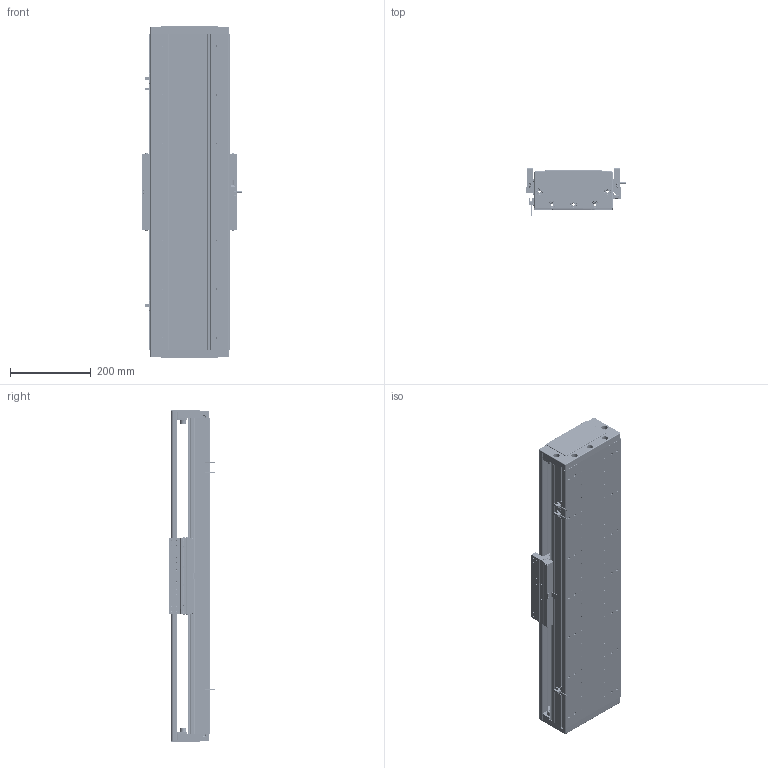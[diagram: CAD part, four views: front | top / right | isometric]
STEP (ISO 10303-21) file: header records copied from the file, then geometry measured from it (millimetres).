
FILE_DESCRIPTION (( 'STEP AP203' ), '1' );
FILE_NAME ('DA-C195-C2-T540-C010-0.2 眻盄萇儂.STEP', '2025-08-15T01:00:44', ( '' ), ( '' ), 'SwSTEP 2.0', 'SolidWorks 2019', '' );
FILE_SCHEMA (( 'CONFIG_CONTROL_DESIGN' ));
Length unit declared in the file: millimetre
Products named in the file (12): 66156-0001-003-00 裔啣; LMT黍杅芛; IU-CU195-L-00 菁釱(L780); DA95-HXJ-00 遣喳砎蝶; CU195-C2賑輸-俋楷; MS200 棠掑喜S315-T240; DA-C195-C2-T540-C010-0.2 眻盄萇儂; IU-CU195-L 菁釱絳寢; 葩璃 DA95-GT-T-00; 66156-0001-005-00 光电感应片(默认); PM-T45ㄗ侂狟ㄘ; DA195-DG-H-00  端盖（压铸镂空版）
Assembly tree (20 placements, depth 3):
  DA-C195-C2-T540-C010-0.2 眻盄萇儂
    IU-CU195-L 菁釱絳寢
      IU-CU195-L-00 菁釱(L780)
      葩璃 DA95-GT-T-00  x4
    LMT黍杅芛
    MS200 棠掑喜S315-T240
    PM-T45ㄗ侂狟ㄘ  x3
    66156-0001-005-00 光电感应片(默认)
    DA195-DG-H-00  端盖（压铸镂空版）  x2
    DA95-HXJ-00 遣喳砎蝶  x4
    66156-0001-003-00 裔啣
    CU195-C2賑輸-俋楷
Bounding box: 248 x 115.6 x 820 mm (x, y, z)
Volume: 6205865.2 mm3; surface area: 1761915.3 mm2
Topology: 58 solids, 130 shells, 5105 faces, 12860 edges, 7785 vertices
Faces by surface type: cylinder 2125, plane 1630, bspline 710, cone 560, torus 44, sphere 36
Entity records: 137675 total; most frequent: CARTESIAN_POINT 42267, ORIENTED_EDGE 19774, DIRECTION 19248, EDGE_CURVE 9887, AXIS2_PLACEMENT_3D 7151, VERTEX_POINT 6215, VECTOR 4946, LINE 4946
